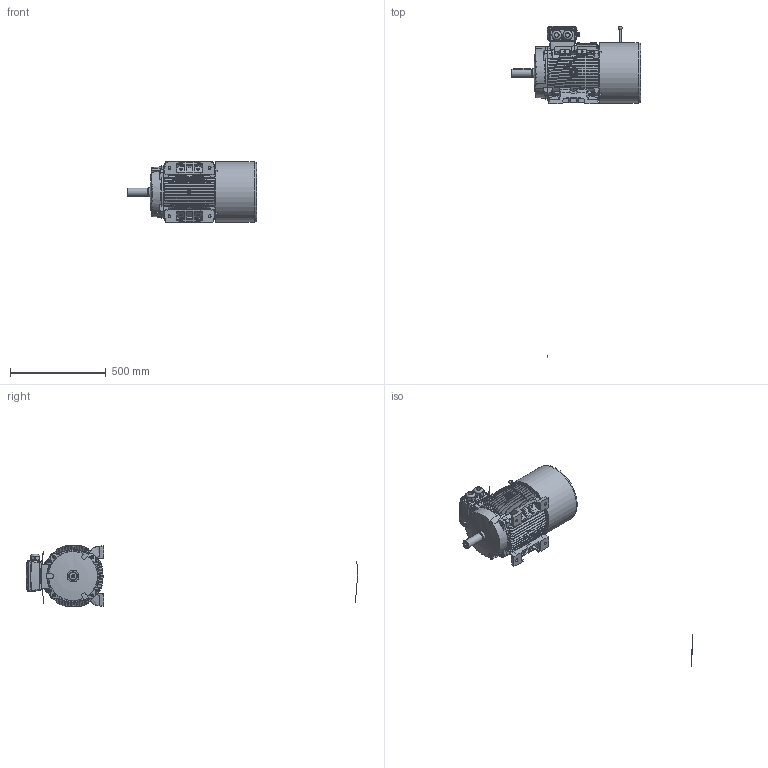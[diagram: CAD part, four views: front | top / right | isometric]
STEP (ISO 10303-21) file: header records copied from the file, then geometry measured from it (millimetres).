
FILE_DESCRIPTION((''),'2;1');
FILE_NAME('C:\xampp\htdocs\motive\source_step\M160M.stp','2016-12-27T10:26:47',('wilu'),(''),'Autodesk Inventor 2013','Autodesk Inventor 2013','');
FILE_SCHEMA(('AUTOMOTIVE_DESIGN { 1 0 10303 214 1 1 1 1 }'));
Length unit declared in the file: millimetre
Products named in the file (7): M160M_old; BODY160M; B3160; SH160M; FEET160M_1; FCVATDC160; TBOX_160_180
Assembly tree (7 placements, depth 2):
  M160M_old
    BODY160M
    B3160
    SH160M
    FEET160M_1  x2
    FCVATDC160
    TBOX_160_180
Bounding box: 676.01 x 1736.8 x 1655.93 mm (x, y, z)
Volume: 41715182.9 mm3; surface area: 2063950.5 mm2
Topology: 14 solids, 15 shells, 5329 faces, 14257 edges, 9165 vertices
Faces by surface type: plane 2543, bspline 1487, cylinder 815, cone 234, torus 232, sphere 18
Full cylindrical faces by diameter (mm): 2.5 x15, 5 x20, 6.8 x8, 7 x4, 9.5 x4, 10 x2, 10.2 x8, 14 x5, 15 x4, 16 x7, 22 x2, 30 x4, 30.155 x2, 38 x2, 40 x1, 42 x1, 43 x1, 45 x2, 55 x1, 62 x1, 90 x1, 100 x2, 103.5 x1, 263 x1, 315 x1
Entity records: 276094 total; most frequent: CARTESIAN_POINT 153269, ORIENTED_EDGE 27692, DIRECTION 22881, EDGE_CURVE 13857, VERTEX_POINT 8987, AXIS2_PLACEMENT_3D 8783, EDGE_LOOP 5705, VECTOR 5315
